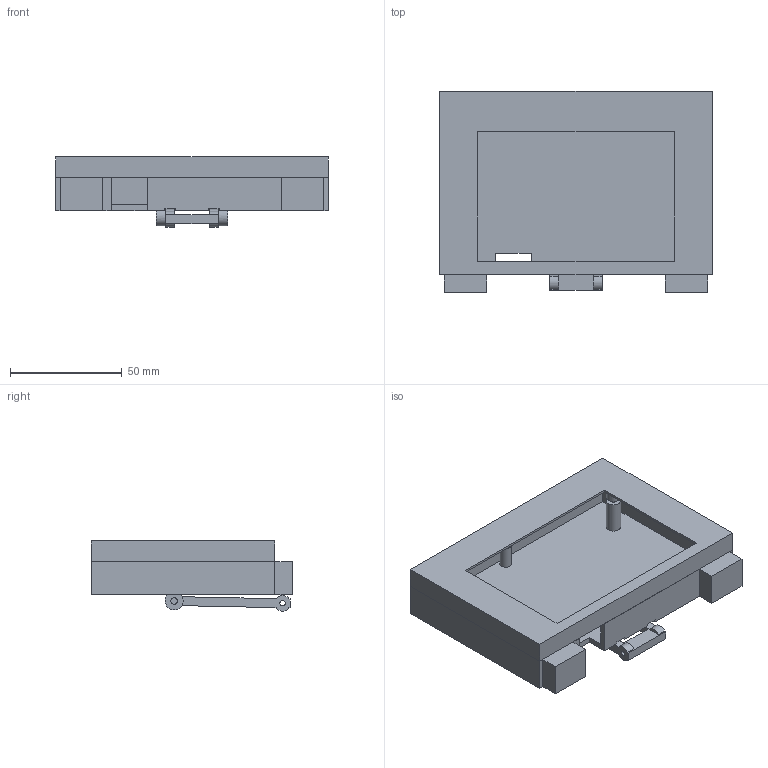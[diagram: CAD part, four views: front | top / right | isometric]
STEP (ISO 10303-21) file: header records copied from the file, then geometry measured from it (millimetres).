
FILE_DESCRIPTION(('Open CASCADE Model'),'2;1');
FILE_NAME('Open CASCADE Shape Model','2026-09-24T16:47:18',('Author'),( 'Open CASCADE'),'Open CASCADE STEP processor 8.0','Open CASCADE 8.0' ,'Unknown');
FILE_SCHEMA(('AP242_MANAGED_MODEL_BASED_3D_ENGINEERING_MIM_LF {1 0 10303 442 1 1 4 }' ));
Length unit declared in the file: millimetre
Products named in the file (3): Extended Front Cover with M2 Inserts; Single Rectangle Rear Shell; Adjustable Folding Kickstand
Bounding box: 122 x 90 x 31.4 mm (x, y, z)
Volume: 57002.8 mm3; surface area: 53765.1 mm2
Topology: 3 solids, 3 shells, 125 faces, 303 edges, 202 vertices
Faces by surface type: plane 91, cylinder 34
Full cylindrical faces by diameter (mm): 2.4 x7, 2.9 x6, 4.6 x4, 5.2 x1, 6.4 x7
Entity records: 7694 total; most frequent: CARTESIAN_POINT 1267, DIRECTION 1230, LINE 761, VECTOR 761, ORIENTED_EDGE 606, PCURVE 606, DEFINITIONAL_REPRESENTATION 606, EDGE_CURVE 303
